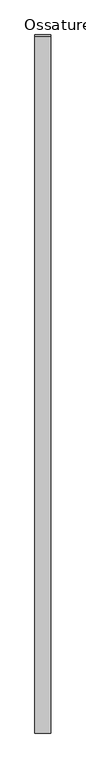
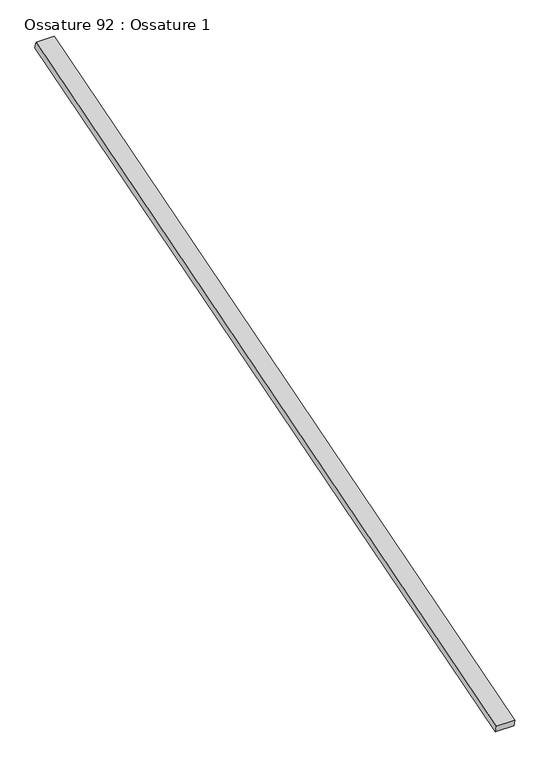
"""IFC4 building model written with IfcOpenShell, lengths in millimetres: beam geometry, Ossature 92 : Ossature 1."""

from ifc_helpers import new_model, si_unit, frame, origin, place, context, project, spatial, polyline, outline, extrude, source, transform, mapped, element, save


def ossature_92_ossature_1_c730bc1d(model_context):
    return source(origin(), model_context, "Body", "SweptSolid", [
        extrude(outline(polyline([(0.0, 0.0), (0.0, -4543.0299679), (-100.0, -4543.0299679), (-100.0, 0.0), (0.0, 0.0)])), frame((22193.2466393, -833.3913565, 8153.6336115), z_axis=(0.0, -0.28734788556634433, 0.9578262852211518), x_axis=(-1.0, 0.0, 0.0)), (0.0, 0.0, 1.0), 40.0),
    ])


if __name__ == "__main__":
    model = new_model("IFC4")
    model_context = context("Model", 3, world=origin())
    ifc_project = project(units=[si_unit("LENGTHUNIT", "METRE", prefix="MILLI")], contexts=[model_context])
    site = spatial("IfcSite", under=ifc_project)
    building = spatial("IfcBuilding", under=site)
    placement = place(None, origin())
    ossature_92_ossature_1_shape = ossature_92_ossature_1_c730bc1d(model_context)
    element("IfcBeam", 1, ObjectType="Ossature 92 : Ossature 1", at=placement, inside=building, context=model_context, shape_type="MappedRepresentation", body=[
        mapped(ossature_92_ossature_1_shape, transform((0.0, 0.0, 0.0), x_axis=(1.0, 0.0, 0.0), y_axis=(0.0, 1.0, 0.0), z_axis=(0.0, 0.0, 1.0))),
    ])
    save(model, "model.ifc")
